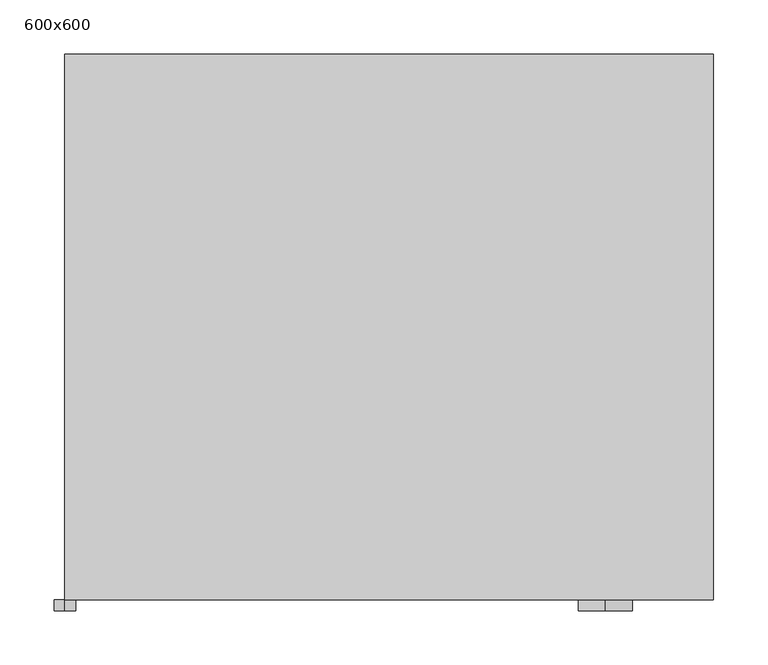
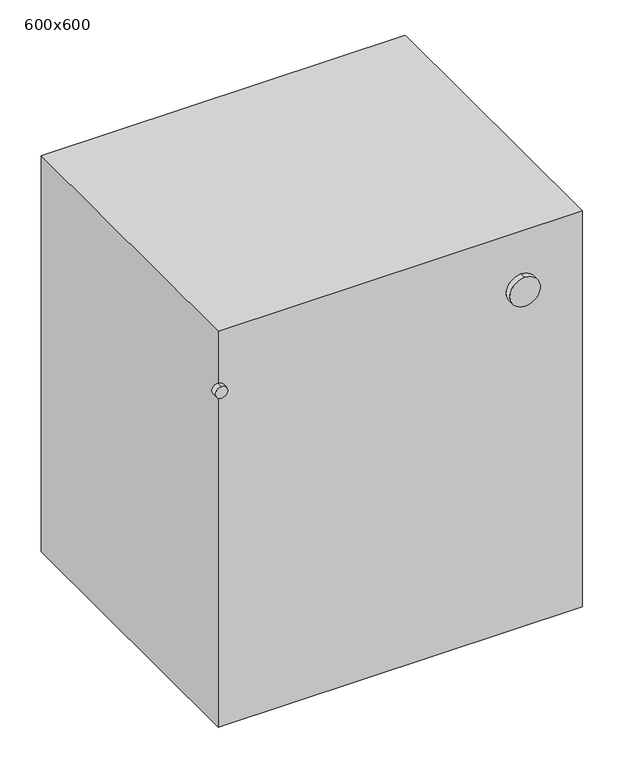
"""IFC4 building model written with IfcOpenShell, lengths in millimetres: flow terminal geometry, SP_посудомоечная машина_LEG : 600x600."""

from ifc_helpers import new_model, si_unit, frame, origin, place, context, project, spatial, circle_curve, source, transform, mapped, element, save
from ifc_brep_helpers import plane_surface, cylinder_surface, advanced_brep


def flow_terminal_600x600_098c5d3b(model_context):
    return source(origin(), model_context, "Body", "AdvancedBrep", [
        advanced_brep(
        [(300.0, 600.0, 800.0), (-300.0, 600.0, 800.0), (-300.0, 95.0, 800.0), (300.0, 95.0, 800.0), (300.0, 600.0, 110.0), (300.0, 95.0, 110.0), (-300.0, 95.0, 110.0), (-300.0, 600.0, 110.0), (-300.0, 95.0, 690.0), (-300.0, 95.0, 710.0), (200.0, 95.0, 725.0), (200.0, 95.0, 675.0), (-300.0, 85.0, 690.0), (-300.0, 85.0, 710.0), (200.0, 85.0, 675.0), (200.0, 85.0, 725.0)],
        [
            (0, 1),
            (1, 2),
            (2, 3),
            (3, 0),
            (4, 5),
            (5, 6),
            (6, 7),
            (7, 4),
            (0, 4),
            (7, 1),
            (6, 8),
            (8, 9),
            (9, 2),
            (9, 8, circle_curve(frame((-300.0, 95.0, 700.0), z_axis=(0.0, 1.0, 0.0), x_axis=(0.0, 0.0, 1.0)), 10.0)),
            (5, 3),
            (10, 11, circle_curve(frame((200.0, 95.0, 700.0), z_axis=(0.0, 1.0, 0.0), x_axis=(0.0, 0.0, 1.0)), 25.0)),
            (11, 10, circle_curve(frame((200.0, 95.0, 700.0), z_axis=(0.0, 1.0, 0.0), x_axis=(0.0, 0.0, 1.0)), 25.0)),
            (12, 13, circle_curve(frame((-300.0, 85.0, 700.0), z_axis=(0.0, -1.0, 0.0), x_axis=(0.0, 0.0, 1.0)), 10.0)),
            (13, 12, circle_curve(frame((-300.0, 85.0, 700.0), z_axis=(0.0, -1.0, 0.0), x_axis=(0.0, 0.0, 1.0)), 10.0)),
            (12, 8),
            (9, 13),
            (9, 8, circle_curve(frame((-300.0, 95.0, 700.0), z_axis=(0.0, -1.0, 0.0), x_axis=(0.0, 0.0, 1.0)), 10.0)),
            (14, 15, circle_curve(frame((200.0, 85.0, 700.0), z_axis=(0.0, -1.0, 0.0), x_axis=(0.0, 0.0, 1.0)), 25.0)),
            (15, 14, circle_curve(frame((200.0, 85.0, 700.0), z_axis=(0.0, -1.0, 0.0), x_axis=(0.0, 0.0, 1.0)), 25.0)),
            (14, 11),
            (10, 15),
        ],
        [
            plane_surface(frame((-300.0, 600.0, 800.0), z_axis=(0.0, 0.0, 1.0), x_axis=(-1.0, 0.0, 0.0))),
            plane_surface(frame((-300.0, 600.0, 110.0), z_axis=(0.0, 0.0, -1.0), x_axis=(1.0, 0.0, 0.0))),
            plane_surface(frame((300.0, 600.0, 800.0), z_axis=(0.0, 1.0, 0.0), x_axis=(0.0, 0.0, -1.0))),
            plane_surface(frame((-300.0, 600.0, 800.0), z_axis=(-1.0, 0.0, 0.0), x_axis=(0.0, 0.0, -1.0))),
            plane_surface(frame((-300.0, 95.0, 800.0), z_axis=(0.0, -1.0, 0.0), x_axis=(0.0, 0.0, -1.0))),
            plane_surface(frame((300.0, 95.0, 800.0), z_axis=(1.0, 0.0, 0.0), x_axis=(0.0, 0.0, -1.0))),
            plane_surface(frame((-300.0, 85.0, 700.0), z_axis=(0.0, -1.0, 0.0), x_axis=(1.0, 0.0, 0.0))),
            cylinder_surface(frame((-300.0, 85.0, 700.0), z_axis=(0.0, -1.0, 0.0), x_axis=(0.0, 0.0, 1.0)), 10.0),
            plane_surface(frame((200.0, 85.0, 700.0), z_axis=(0.0, -1.0, 0.0), x_axis=(1.0, 0.0, 0.0))),
            cylinder_surface(frame((200.0, 85.0, 700.0), z_axis=(0.0, -1.0, 0.0), x_axis=(0.0, 0.0, 1.0)), 25.0),
            plane_surface(frame((-300.0, 95.0, 700.0), z_axis=(0.0, 1.0, 0.0), x_axis=(1.0, 0.0, 0.0))),
        ],
        [
            (0, [[1, 2, 3, 4]]),
            (1, [[5, 6, 7, 8]]),
            (2, [[-1, 9, -8, 10]]),
            (3, [[-2, -10, -7, 11, 12, 13]]),
            (4, [[-3, -13, 14, -11, -6, 15], [16, 17]]),
            (5, [[-4, -15, -5, -9]]),
            (6, [[18, 19]]),
            (7, [[-18, 20, -14, 21]]),
            (7, [[22, -20, -19, -21]]),
            (8, [[23, 24]]),
            (9, [[-23, 25, -16, 26]]),
            (9, [[-24, -26, -17, -25]]),
            (10, [[-22, -12]]),
        ],
    ),
    ])


if __name__ == "__main__":
    model = new_model("IFC4")
    model_context = context("Model", 3, world=origin())
    ifc_project = project(units=[si_unit("LENGTHUNIT", "METRE", prefix="MILLI")], contexts=[model_context])
    site = spatial("IfcSite", under=ifc_project)
    building = spatial("IfcBuilding", under=site)
    placement = place(None, origin())
    flow_terminal_600x600_shape = flow_terminal_600x600_098c5d3b(model_context)
    element("IfcFlowTerminal", 1, ObjectType="SP_посудомоечная машина_LEG : 600x600", at=placement, inside=building, context=model_context, shape_type="MappedRepresentation", body=[
        mapped(flow_terminal_600x600_shape, transform((0.0, 0.0, 0.0), x_axis=(1.0, 0.0, 0.0), y_axis=(0.0, 1.0, 0.0), z_axis=(0.0, 0.0, 1.0))),
    ])
    save(model, "model.ifc")
